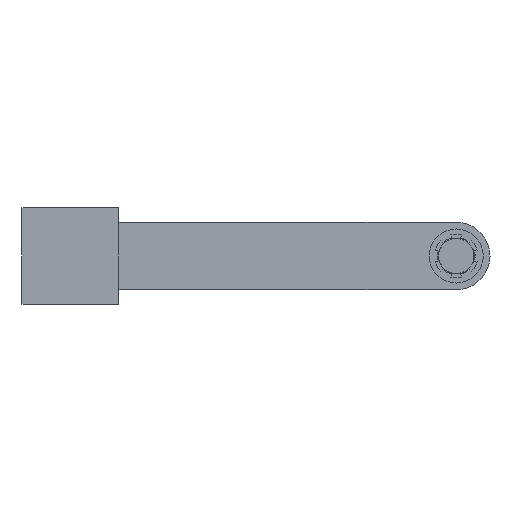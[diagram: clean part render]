
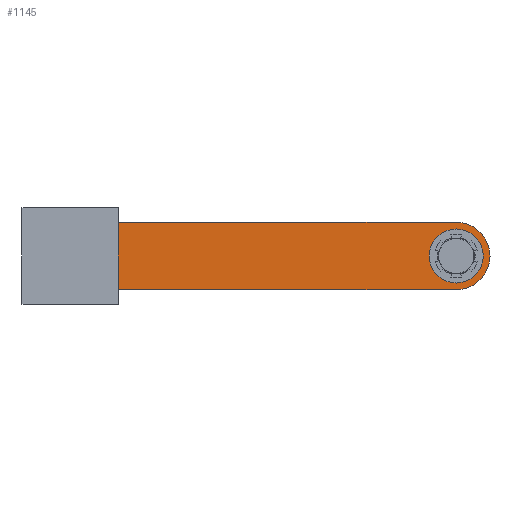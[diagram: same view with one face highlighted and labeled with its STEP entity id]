
A CAD part, front view. The second image highlights one B-rep face of the part: STEP entity #1145.
In plain terms, the highlighted planar face has unit normal (0, -1, 0).
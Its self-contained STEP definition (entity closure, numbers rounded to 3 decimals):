
#10=CARTESIAN_POINT('',(0.,49.7,0.));
#11=DIRECTION('',(0.,1.,0.));
#12=DIRECTION('',(0.,0.,1.));
#13=AXIS2_PLACEMENT_3D('',#10,#11,#12);
#72=CARTESIAN_POINT('',(0.,49.7,0.));
#73=DIRECTION('',(0.,1.,0.));
#74=DIRECTION('',(1.,0.,0.));
#75=AXIS2_PLACEMENT_3D('',#72,#73,#74);
#82=DIRECTION('',(1.,0.,0.));
#83=VECTOR('',#82,200.);
#84=CARTESIAN_POINT('',(0.,49.7,17.5));
#85=LINE('',#84,#83);
#86=CARTESIAN_POINT('',(200.,49.7,0.));
#87=DIRECTION('',(0.,1.,0.));
#88=DIRECTION('',(0.,0.,1.));
#89=AXIS2_PLACEMENT_3D('',#86,#87,#88);
#91=DIRECTION('',(-1.,0.,0.));
#92=VECTOR('',#91,200.);
#93=CARTESIAN_POINT('',(200.,49.7,-17.5));
#94=LINE('',#93,#92);
#95=CARTESIAN_POINT('',(200.,49.7,0.));
#96=DIRECTION('',(0.,1.,0.));
#97=DIRECTION('',(-1.,0.,0.));
#98=AXIS2_PLACEMENT_3D('',#95,#96,#97);
#100=CARTESIAN_POINT('',(200.,49.7,0.));
#101=DIRECTION('',(0.,1.,0.));
#102=DIRECTION('',(1.,0.,0.));
#103=AXIS2_PLACEMENT_3D('',#100,#101,#102);
#807=CARTESIAN_POINT('',(200.,49.7,17.5));
#808=CARTESIAN_POINT('',(200.,49.7,-17.5));
#809=VERTEX_POINT('',#807);
#810=VERTEX_POINT('',#808);
#811=CARTESIAN_POINT('',(0.,49.7,-17.5));
#813=VERTEX_POINT('',#811);
#815=CARTESIAN_POINT('',(0.,49.7,17.5));
#816=CARTESIAN_POINT('',(17.5,49.7,0.));
#817=VERTEX_POINT('',#815);
#818=VERTEX_POINT('',#816);
#823=CARTESIAN_POINT('',(186.,49.7,0.));
#824=CARTESIAN_POINT('',(214.,49.7,0.));
#825=VERTEX_POINT('',#823);
#826=VERTEX_POINT('',#824);
#1124=CARTESIAN_POINT('',(0.,49.7,0.));
#1125=DIRECTION('',(0.,1.,0.));
#1126=DIRECTION('',(1.,0.,0.));
#1127=AXIS2_PLACEMENT_3D('',#1124,#1125,#1126);
#1128=PLANE('',#1127);
#1129=ORIENTED_EDGE('',*,*,#1014,.F.);
#1131=ORIENTED_EDGE('',*,*,#1130,.T.);
#1133=ORIENTED_EDGE('',*,*,#1132,.T.);
#1135=ORIENTED_EDGE('',*,*,#1134,.T.);
#1136=ORIENTED_EDGE('',*,*,#1117,.F.);
#1137=EDGE_LOOP('',(#1129,#1131,#1133,#1135,#1136));
#1138=FACE_OUTER_BOUND('',#1137,.F.);
#1140=ORIENTED_EDGE('',*,*,#1139,.F.);
#1142=ORIENTED_EDGE('',*,*,#1141,.F.);
#1143=EDGE_LOOP('',(#1140,#1142));
#1144=FACE_BOUND('',#1143,.F.);
#1145=ADVANCED_FACE('',(#1138,#1144),#1128,.F.);
#14=CIRCLE('',#13,17.5);
#76=CIRCLE('',#75,17.5);
#90=CIRCLE('',#89,17.5);
#99=CIRCLE('',#98,14.);
#104=CIRCLE('',#103,14.);
#1014=EDGE_CURVE('',#817,#818,#14,.T.);
#1117=EDGE_CURVE('',#818,#813,#76,.T.);
#1130=EDGE_CURVE('',#817,#809,#85,.T.);
#1132=EDGE_CURVE('',#809,#810,#90,.T.);
#1134=EDGE_CURVE('',#810,#813,#94,.T.);
#1139=EDGE_CURVE('',#825,#826,#99,.T.);
#1141=EDGE_CURVE('',#826,#825,#104,.T.);
